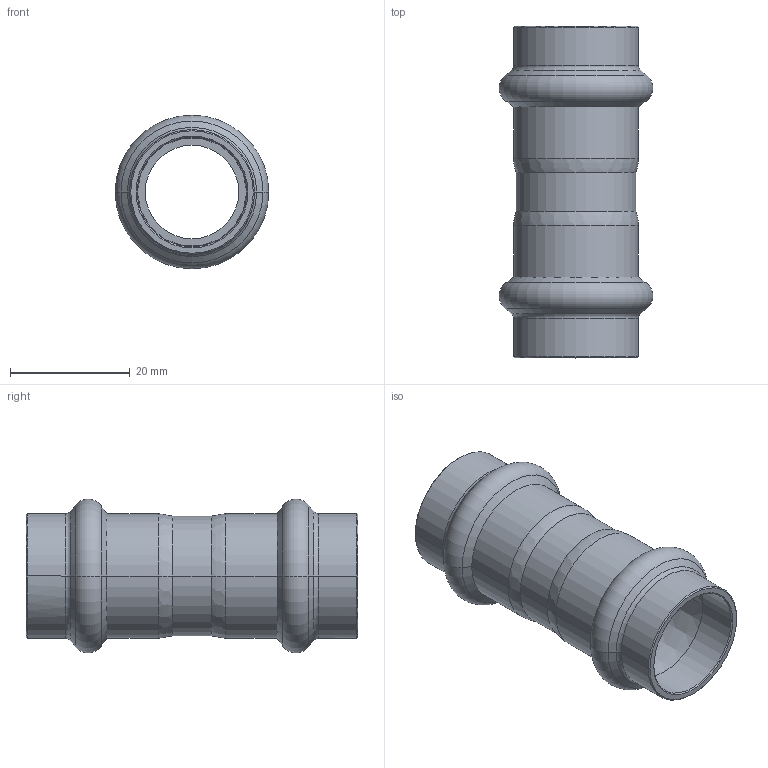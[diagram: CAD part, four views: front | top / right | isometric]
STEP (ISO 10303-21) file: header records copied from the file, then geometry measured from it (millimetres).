
FILE_DESCRIPTION(('CoCreate Modeling STEP Export'),'2;1');
FILE_NAME('8270VW18.stp','2013-01-29T11:56:45',(''),(''),'CoCreate Modeling STEP processor for AP214 (Solid Model)','CoCreate Modeling 17.00A 17-Jun-2010 (C) Parametric Technology GmbH','');
FILE_SCHEMA(('AUTOMOTIVE_DESIGN { 1 0 10303 214 1 1 1 1 }'));
Length unit declared in the file: millimetre
Products named in the file (1): 8270VW18
Bounding box: 25.7 x 55.51 x 25.7 mm (x, y, z)
Volume: 6048.7 mm3; surface area: 7595.4 mm2
Topology: 1 solids, 1 shells, 74 faces, 154 edges, 86 vertices
Faces by surface type: cylinder 24, torus 24, cone 20, plane 6
Entity records: 1594 total; most frequent: ORIENTED_EDGE 308, DIRECTION 254, CARTESIAN_POINT 235, EDGE_CURVE 154, AXIS2_PLACEMENT_3D 105, VERTEX_POINT 86, EDGE_LOOP 80, FACE_OUTER_BOUND 74
